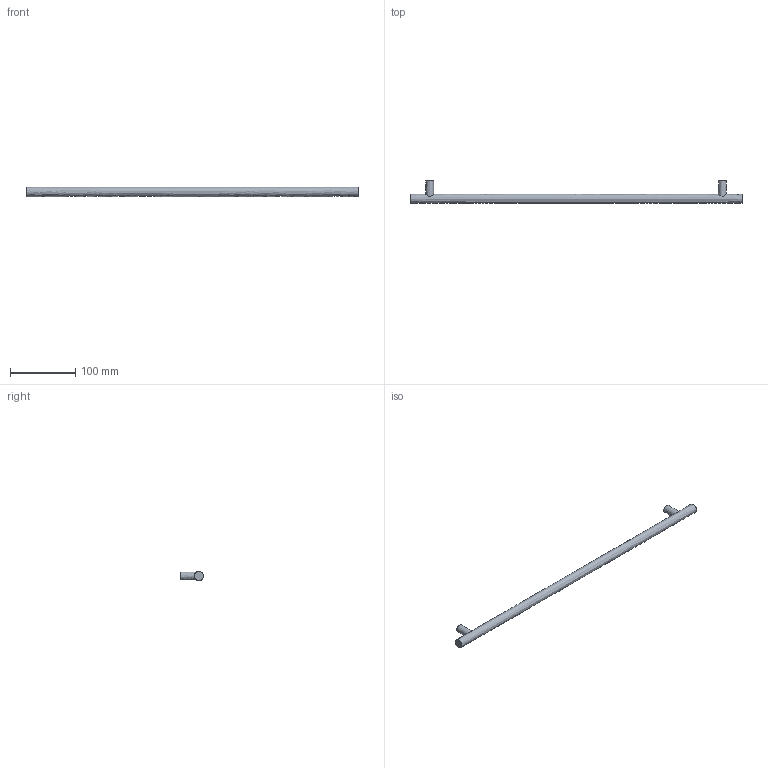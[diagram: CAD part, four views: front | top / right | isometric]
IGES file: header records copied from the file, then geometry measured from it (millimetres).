
Start section: Data from Parasolid IGES Translator 15.0.47, Copyright(c) 2006 Siemens P LM Software. All Rights Reserved.
Global section: file name: 9071058.igs; native system:  By UGS Corp.; preprocessor: XPlus GENERIC/IGES 3.0; author: Noname; organization: Noname; date: 20140122.181432; units: millimetre
Bounding box: 508 x 35 x 14 mm (x, y, z)
Surface area: 24622.7 mm2 (no closed solid volume)
Topology: 0 solids, 0 shells, 11 faces, 30 edges, 22 vertices
Faces by surface type: extrusion 6, revolution 5
